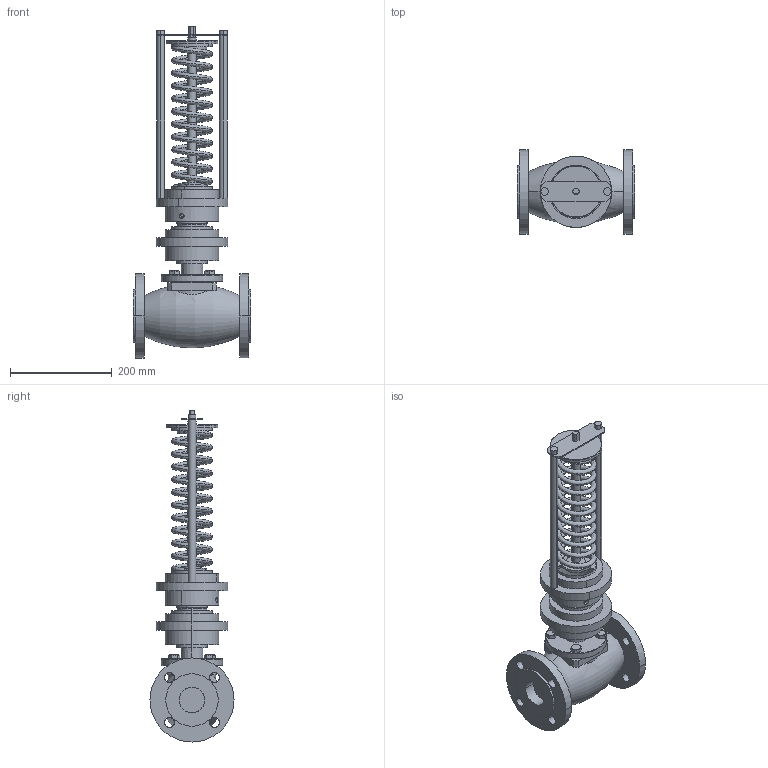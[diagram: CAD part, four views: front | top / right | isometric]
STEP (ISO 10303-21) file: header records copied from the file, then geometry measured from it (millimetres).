
FILE_DESCRIPTION (( 'STEP AP214' ), '1' );
FILE_NAME ('RDT, RDT-P DN-50 (0.1).STEP', '2025-12-12T07:11:26', ( '' ), ( '' ), 'SwSTEP 2.0', 'SolidWorks 2023', '' );
FILE_SCHEMA (( 'AUTOMOTIVE_DESIGN' ));
Length unit declared in the file: millimetre
Products named in the file (4): RDT, RDT-P DN-50 (0.1); RDT___ DN-15-100(0.1)_6.stp; RDT DN-50(______).stp; RDT, RDT-P DN-50 (0.1).stp
Assembly tree (3 placements, depth 3):
  RDT, RDT-P DN-50 (0.1)
    RDT, RDT-P DN-50 (0.1).stp
      RDT___ DN-15-100(0.1)_6.stp
      RDT DN-50(______).stp
Bounding box: 230 x 165 x 652 mm (x, y, z)
Volume: 4682000.9 mm3; surface area: 466963.3 mm2
Topology: 2 solids, 2 shells, 223 faces, 536 edges, 344 vertices
Faces by surface type: cylinder 111, plane 87, cone 21, bspline 2, torus 2
Entity records: 11124 total; most frequent: CARTESIAN_POINT 5616, DIRECTION 1203, ORIENTED_EDGE 1072, EDGE_CURVE 536, AXIS2_PLACEMENT_3D 486, VERTEX_POINT 344, EDGE_LOOP 280, CIRCLE 258
